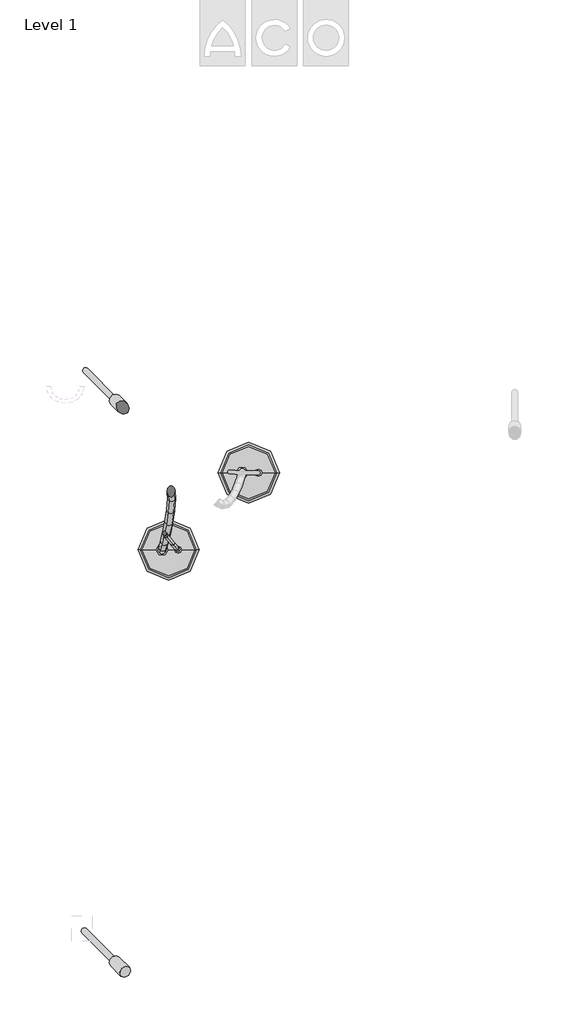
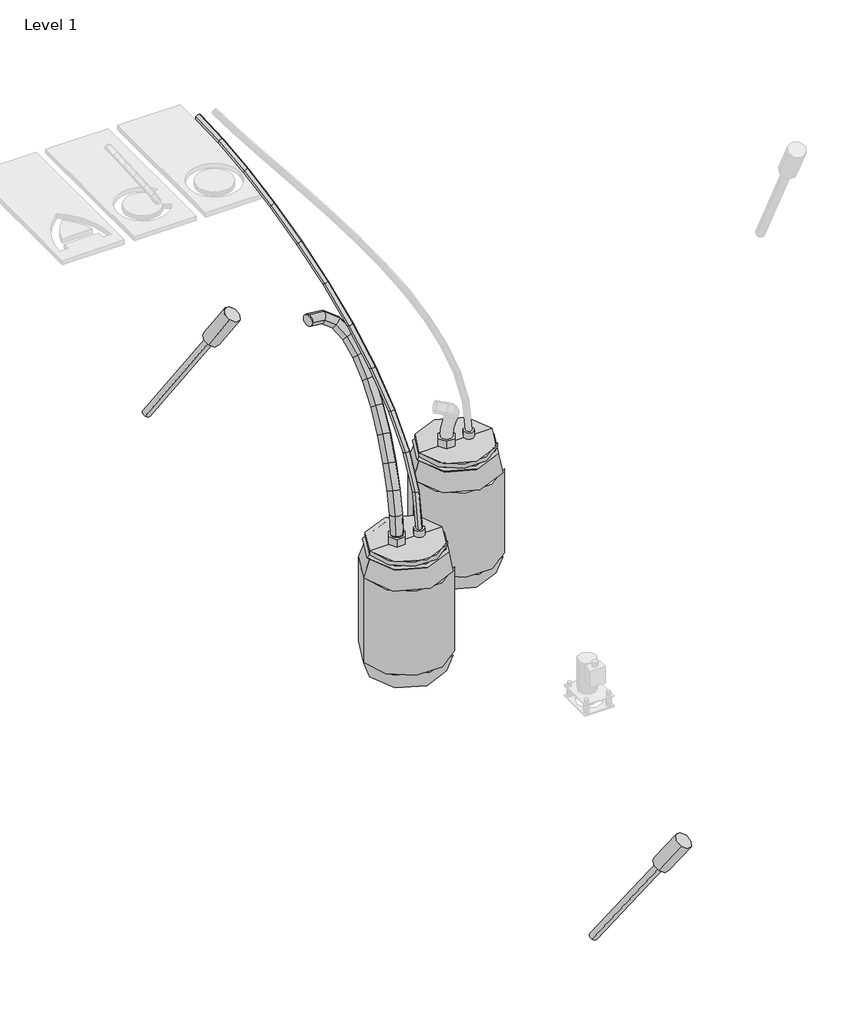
# One storey, part 4 of 6: 4 unitary equipment elements, 2 pipe segments.
"""IFC4 building model written with IfcOpenShell, lengths in millimetres."""

from ifc_helpers import new_model, si_unit, frame, origin, place, context, project, spatial, circle_curve, ellipse_curve, transform, mapped, element, save
from ifc_brep_helpers import plane_surface, cylinder_surface, advanced_brep
from components import std_bcf9d813, std_59afe5f4

model = new_model("IFC4")

# Units and contexts
model_context = context("Model", 3, world=origin())
ifc_project = project(units=[si_unit("LENGTHUNIT", "METRE", prefix="MILLI")], contexts=[model_context])

# Site, building, storey
site = spatial("IfcSite", under=ifc_project)
building = spatial("IfcBuilding", under=site)
storey = spatial("IfcBuildingStorey", under=building, Name="Level 1", Elevation=0.0)

# Pipe segments
placement = place(None, origin())
element("IfcPipeSegment", 1, ObjectType="Flex - Round", at=placement, inside=storey, context=model_context, shape_type="AdvancedBrep", body=[
    advanced_brep(
    [(390.9074141, 8701.4224198, 627.6347701), (391.4494078, 8719.0639775, 626.6439698), (409.0925859, 8718.5775802, 627.6347701), (408.5505922, 8700.9360225, 628.6255704), (381.5070959, 8711.3871417, 799.9180287), (382.0973464, 8728.9775453, 798.042808), (399.6972618, 8728.5370081, 799.8264999), (399.1070113, 8710.9466046, 801.7017207), (-14.6253635, 9728.6515235, 2105.5369575), (2.1531923, 9728.9219305, 2111.096359), (7.6253635, 9731.3484765, 2094.4630425), (-9.1531923, 9731.0780695, 2088.903641), (355.7172355, 8740.685022, 979.6225498), (356.5438679, 8758.0068903, 976.1002132), (373.9506833, 8757.7857192, 979.2294315), (373.124051, 8740.4638509, 982.7517681), (317.1606507, 8788.4192683, 1161.75844), (318.301802, 8805.3517524, 1156.7503602), (335.5057655, 8805.3817182, 1160.8378223), (334.3646143, 8788.4492341, 1165.8459021), (269.4662939, 8853.69223, 1341.3236765), (270.9862151, 8870.1063418, 1334.8895599), (288.0092883, 8870.3838683, 1339.6580589), (286.4893671, 8853.9697566, 1346.0921755), (216.2630202, 8935.6154259, 1513.3275531), (218.2317208, 8951.3385004, 1505.4425519), (235.1081293, 8951.8418635, 1510.6852117), (233.1394287, 8936.118789, 1518.5702128), (161.1781236, 9033.3187876, 1672.7867807), (163.6812273, 9048.0939985, 1663.354795), (180.4507269, 9048.7869844, 1668.9069334), (177.9476232, 9034.0117735, 1678.3389192), (107.8390893, 9145.9629985, 1814.7175966), (110.9791312, 9159.3930891, 1803.59077), (127.6853284, 9160.2197604, 1809.311351), (124.5452865, 9146.7896698, 1820.4381776), (59.8819395, 9272.752704, 1934.115133), (63.7623568, 9284.2253812, 1921.1450153), (80.4516443, 9285.0967586, 1926.9076959), (76.571227, 9273.6240814, 1939.8778136), (20.9732279, 9412.9313018, 2025.9060127), (25.642923, 9421.5604036, 2011.0738825), (42.3588532, 9422.3357939, 2016.7737095), (37.6891581, 9413.7066921, 2031.6058396), (-5.1549434, 9565.7008022, 2084.8806045), (0.1842504, 9570.4153937, 2068.5373307), (16.9505858, 9570.8960684, 2074.1233867), (11.6113919, 9566.1814769, 2090.4666605)],
    [
        (0, 1, circle_curve(frame((400.0, 8710.0, 627.6347701), z_axis=(0.054391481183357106, -0.05765719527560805, -0.9968536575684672), x_axis=(-0.7274068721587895, -0.6862064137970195, 0.0)), 12.5)),
        (1, 2, circle_curve(frame((400.0, 8710.0, 627.6347701), z_axis=(0.054391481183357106, -0.05765719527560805, -0.9968536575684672), x_axis=(-0.7274068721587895, -0.6862064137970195, 0.0)), 12.5)),
        (2, 3, circle_curve(frame((400.0, 8710.0, 627.6347701), z_axis=(0.054391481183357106, -0.05765719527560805, -0.9968536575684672), x_axis=(-0.7274068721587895, -0.6862064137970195, 0.0)), 12.5)),
        (3, 0, circle_curve(frame((400.0, 8710.0, 627.6347701), z_axis=(0.054391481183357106, -0.05765719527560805, -0.9968536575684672), x_axis=(-0.7274068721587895, -0.6862064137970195, 0.0)), 12.5)),
        (0, 4),
        (4, 5, ellipse_curve(frame((390.6021788, 8719.9620749, 799.8722643), z_axis=(0.09753789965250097, -0.10873423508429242, -0.9892740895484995), x_axis=(-0.6382819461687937, 0.755829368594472, -0.14600726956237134)), 12.5283638, 12.5)),
        (5, 1),
        (5, 6, ellipse_curve(frame((390.6021788, 8719.9620749, 799.8722643), z_axis=(0.09753789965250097, -0.10873423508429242, -0.9892740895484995), x_axis=(-0.6382819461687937, 0.755829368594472, -0.14600726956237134)), 12.5283638, 12.5)),
        (6, 2),
        (6, 7, ellipse_curve(frame((390.6021788, 8719.9620749, 799.8722643), z_axis=(0.09753789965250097, -0.10873423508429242, -0.9892740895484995), x_axis=(-0.6382819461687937, 0.755829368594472, -0.14600726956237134)), 12.5283638, 12.5)),
        (7, 3),
        (7, 4, ellipse_curve(frame((390.6021788, 8719.9620749, 799.8722643), z_axis=(0.09753789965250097, -0.10873423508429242, -0.9892740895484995), x_axis=(-0.6382819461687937, 0.755829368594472, -0.14600726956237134)), 12.5283638, 12.5)),
        (8, 9, circle_curve(frame((-3.5, 9730.0, 2100.0), z_axis=(-0.05756130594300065, 0.9904160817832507, 0.12554951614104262), x_axis=(-0.8900290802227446, -0.10787811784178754, 0.44295659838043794)), 12.5)),
        (9, 10, circle_curve(frame((-3.5, 9730.0, 2100.0), z_axis=(-0.05756130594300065, 0.9904160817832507, 0.12554951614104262), x_axis=(-0.8900290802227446, -0.10787811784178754, 0.44295659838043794)), 12.5)),
        (10, 11, circle_curve(frame((-3.5, 9730.0, 2100.0), z_axis=(-0.05756130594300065, 0.9904160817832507, 0.12554951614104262), x_axis=(-0.8900290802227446, -0.10787811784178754, 0.44295659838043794)), 12.5)),
        (11, 8, circle_curve(frame((-3.5, 9730.0, 2100.0), z_axis=(-0.05756130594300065, 0.9904160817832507, 0.12554951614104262), x_axis=(-0.8900290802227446, -0.10787811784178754, 0.44295659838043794)), 12.5)),
        (4, 12),
        (12, 13, ellipse_curve(frame((364.8339594, 8749.2353706, 979.4259906), z_axis=(0.17069337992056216, -0.2041596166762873, -0.9639411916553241), x_axis=(-0.5411165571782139, 0.7981474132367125, -0.2648652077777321)), 12.5194937, 12.5)),
        (13, 5),
        (13, 14, ellipse_curve(frame((364.8339594, 8749.2353706, 979.4259906), z_axis=(0.17069337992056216, -0.2041596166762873, -0.9639411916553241), x_axis=(-0.5411165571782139, 0.7981474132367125, -0.2648652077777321)), 12.5194937, 12.5)),
        (14, 6),
        (14, 15, ellipse_curve(frame((364.8339594, 8749.2353706, 979.4259906), z_axis=(0.17069337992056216, -0.2041596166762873, -0.9639411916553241), x_axis=(-0.5411165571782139, 0.7981474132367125, -0.2648652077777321)), 12.5194937, 12.5)),
        (15, 7),
        (15, 12, ellipse_curve(frame((364.8339594, 8749.2353706, 979.4259906), z_axis=(0.17069337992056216, -0.2041596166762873, -0.9639411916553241), x_axis=(-0.5411165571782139, 0.7981474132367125, -0.2648652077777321)), 12.5194937, 12.5)),
        (12, 16),
        (16, 17, ellipse_curve(frame((326.3332081, 8796.9004932, 1161.2981311), z_axis=(0.22167974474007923, -0.2902738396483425, -0.9309130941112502), x_axis=(-0.4175755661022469, 0.8344436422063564, -0.3596309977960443)), 12.5155246, 12.5)),
        (17, 13),
        (17, 18, ellipse_curve(frame((326.3332081, 8796.9004932, 1161.2981311), z_axis=(0.22167974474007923, -0.2902738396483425, -0.9309130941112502), x_axis=(-0.4175755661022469, 0.8344436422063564, -0.3596309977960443)), 12.5155246, 12.5)),
        (18, 14),
        (18, 19, ellipse_curve(frame((326.3332081, 8796.9004932, 1161.2981311), z_axis=(0.22167974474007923, -0.2902738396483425, -0.9309130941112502), x_axis=(-0.4175755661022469, 0.8344436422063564, -0.3596309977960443)), 12.5155246, 12.5)),
        (19, 15),
        (19, 16, ellipse_curve(frame((326.3332081, 8796.9004932, 1161.2981311), z_axis=(0.22167974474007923, -0.2902738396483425, -0.9309130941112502), x_axis=(-0.4175755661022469, 0.8344436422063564, -0.3596309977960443)), 12.5155246, 12.5)),
        (16, 20),
        (20, 21, ellipse_curve(frame((278.7377911, 8862.0380492, 1340.4908677), z_axis=(0.255880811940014, -0.373247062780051, -0.8917463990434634), x_axis=(-0.2769329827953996, 0.8554935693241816, -0.43753728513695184)), 12.5146256, 12.5)),
        (21, 17),
        (21, 22, ellipse_curve(frame((278.7377911, 8862.0380492, 1340.4908677), z_axis=(0.255880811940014, -0.373247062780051, -0.8917463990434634), x_axis=(-0.2769329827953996, 0.8554935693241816, -0.43753728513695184)), 12.5146256, 12.5)),
        (22, 18),
        (22, 23, ellipse_curve(frame((278.7377911, 8862.0380492, 1340.4908677), z_axis=(0.255880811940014, -0.373247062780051, -0.8917463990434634), x_axis=(-0.2769329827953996, 0.8554935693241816, -0.43753728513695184)), 12.5146256, 12.5)),
        (23, 19),
        (23, 20, ellipse_curve(frame((278.7377911, 8862.0380492, 1340.4908677), z_axis=(0.255880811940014, -0.373247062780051, -0.8917463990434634), x_axis=(-0.2769329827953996, 0.8554935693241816, -0.43753728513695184)), 12.5146256, 12.5)),
        (20, 24),
        (24, 25, ellipse_curve(frame((225.6855748, 8943.7286447, 1512.0063824), z_axis=(0.276118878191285, -0.4582555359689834, -0.8448433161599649), x_axis=(-0.1330900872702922, 0.852317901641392, -0.5058074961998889)), 12.5163116, 12.5)),
        (25, 21),
        (25, 26, ellipse_curve(frame((225.6855748, 8943.7286447, 1512.0063824), z_axis=(0.276118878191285, -0.4582555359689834, -0.8448433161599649), x_axis=(-0.1330900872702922, 0.852317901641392, -0.5058074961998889)), 12.5163116, 12.5)),
        (26, 22),
        (26, 27, ellipse_curve(frame((225.6855748, 8943.7286447, 1512.0063824), z_axis=(0.276118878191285, -0.4582555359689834, -0.8448433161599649), x_axis=(-0.1330900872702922, 0.852317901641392, -0.5058074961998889)), 12.5163116, 12.5)),
        (27, 23),
        (27, 24, ellipse_curve(frame((225.6855748, 8943.7286447, 1512.0063824), z_axis=(0.276118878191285, -0.4582555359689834, -0.8448433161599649), x_axis=(-0.1330900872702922, 0.852317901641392, -0.5058074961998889)), 12.5163116, 12.5)),
        (24, 28),
        (28, 29, ellipse_curve(frame((170.8144252, 9041.052886, 1670.8468571), z_axis=(0.2829465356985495, -0.5496860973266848, -0.7859939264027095), x_axis=(0.0014199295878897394, 0.8197206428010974, -0.5727617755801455)), 12.5211287, 12.5)),
        (29, 25),
        (29, 30, ellipse_curve(frame((170.8144252, 9041.052886, 1670.8468571), z_axis=(0.2829465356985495, -0.5496860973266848, -0.7859939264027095), x_axis=(0.0014199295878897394, 0.8197206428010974, -0.5727617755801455)), 12.5211287, 12.5)),
        (30, 26),
        (30, 31, ellipse_curve(frame((170.8144252, 9041.052886, 1670.8468571), z_axis=(0.2829465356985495, -0.5496860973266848, -0.7859939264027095), x_axis=(0.0014199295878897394, 0.8197206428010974, -0.5727617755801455)), 12.5211287, 12.5)),
        (31, 27),
        (31, 28, ellipse_curve(frame((170.8144252, 9041.052886, 1670.8468571), z_axis=(0.2829465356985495, -0.5496860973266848, -0.7859939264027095), x_axis=(0.0014199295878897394, 0.8197206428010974, -0.5727617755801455)), 12.5211287, 12.5)),
        (28, 32),
        (32, 33, ellipse_curve(frame((117.7622089, 9153.0913795, 1812.0144738), z_axis=(0.27460834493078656, -0.6507191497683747, -0.7079229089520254), x_axis=(0.12073693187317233, 0.7537338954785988, -0.6459936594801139)), 12.5307407, 12.5)),
        (33, 29),
        (33, 34, ellipse_curve(frame((117.7622089, 9153.0913795, 1812.0144738), z_axis=(0.27460834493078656, -0.6507191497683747, -0.7079229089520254), x_axis=(0.12073693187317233, 0.7537338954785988, -0.6459936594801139)), 12.5307407, 12.5)),
        (34, 30),
        (34, 35, ellipse_curve(frame((117.7622089, 9153.0913795, 1812.0144738), z_axis=(0.27460834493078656, -0.6507191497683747, -0.7079229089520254), x_axis=(0.12073693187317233, 0.7537338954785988, -0.6459936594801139)), 12.5307407, 12.5)),
        (35, 31),
        (35, 32, ellipse_curve(frame((117.7622089, 9153.0913795, 1812.0144738), z_axis=(0.27460834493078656, -0.6507191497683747, -0.7079229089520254), x_axis=(0.12073693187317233, 0.7537338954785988, -0.6459936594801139)), 12.5307407, 12.5)),
        (32, 36),
        (36, 37, ellipse_curve(frame((70.1667919, 9278.9247313, 1930.5114144), z_axis=(0.24678136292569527, -0.7613128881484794, -0.5995845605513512), x_axis=(0.22484084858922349, 0.6468191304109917, -0.7287465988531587)), 12.5479883, 12.5)),
        (37, 33),
        (37, 38, ellipse_curve(frame((70.1667919, 9278.9247313, 1930.5114144), z_axis=(0.24678136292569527, -0.7613128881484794, -0.5995845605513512), x_axis=(0.22484084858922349, 0.6468191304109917, -0.7287465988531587)), 12.5479883, 12.5)),
        (38, 34),
        (38, 39, ellipse_curve(frame((70.1667919, 9278.9247313, 1930.5114144), z_axis=(0.24678136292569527, -0.7613128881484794, -0.5995845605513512), x_axis=(0.22484084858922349, 0.6468191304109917, -0.7287465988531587)), 12.5479883, 12.5)),
        (39, 35),
        (39, 36, ellipse_curve(frame((70.1667919, 9278.9247313, 1930.5114144), z_axis=(0.24678136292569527, -0.7613128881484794, -0.5995845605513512), x_axis=(0.22484084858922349, 0.6468191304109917, -0.7287465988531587)), 12.5479883, 12.5)),
        (36, 40),
        (40, 41, ellipse_curve(frame((31.6660406, 9417.6335478, 2021.3398611), z_axis=(0.19303103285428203, -0.8733042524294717, -0.44730157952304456), x_axis=(0.3142588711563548, 0.4868872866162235, -0.8149737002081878)), 12.5751961, 12.5)),
        (41, 37),
        (41, 42, ellipse_curve(frame((31.6660406, 9417.6335478, 2021.3398611), z_axis=(0.19303103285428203, -0.8733042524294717, -0.44730157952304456), x_axis=(0.3142588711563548, 0.4868872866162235, -0.8149737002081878)), 12.5751961, 12.5)),
        (42, 38),
        (42, 43, ellipse_curve(frame((31.6660406, 9417.6335478, 2021.3398611), z_axis=(0.19303103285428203, -0.8733042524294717, -0.44730157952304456), x_axis=(0.3142588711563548, 0.4868872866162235, -0.8149737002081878)), 12.5751961, 12.5)),
        (43, 39),
        (43, 40, ellipse_curve(frame((31.6660406, 9417.6335478, 2021.3398611), z_axis=(0.19303103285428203, -0.8733042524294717, -0.44730157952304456), x_axis=(0.3142588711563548, 0.4868872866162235, -0.8149737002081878)), 12.5751961, 12.5)),
        (40, 44),
        (44, 45, ellipse_curve(frame((5.8978212, 9568.2984353, 2079.5019956), z_axis=(0.10848347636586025, -0.9640278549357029, -0.2426553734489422), x_axis=(0.3842632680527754, 0.2657878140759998, -0.8841371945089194)), 12.6071811, 12.5)),
        (45, 41),
        (45, 46, ellipse_curve(frame((5.8978212, 9568.2984353, 2079.5019956), z_axis=(0.10848347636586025, -0.9640278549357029, -0.2426553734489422), x_axis=(0.3842632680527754, 0.2657878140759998, -0.8841371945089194)), 12.6071811, 12.5)),
        (46, 42),
        (46, 47, ellipse_curve(frame((5.8978212, 9568.2984353, 2079.5019956), z_axis=(0.10848347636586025, -0.9640278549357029, -0.2426553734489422), x_axis=(0.3842632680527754, 0.2657878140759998, -0.8841371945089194)), 12.6071811, 12.5)),
        (47, 43),
        (47, 44, ellipse_curve(frame((5.8978212, 9568.2984353, 2079.5019956), z_axis=(0.10848347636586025, -0.9640278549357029, -0.2426553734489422), x_axis=(0.3842632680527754, 0.2657878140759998, -0.8841371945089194)), 12.6071811, 12.5)),
        (44, 8),
        (11, 45),
        (10, 46),
        (9, 47),
    ],
    [
        plane_surface(frame((400.0, 8697.5208563, 628.3565535), z_axis=(0.054391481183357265, -0.05765719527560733, -0.9968536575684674), x_axis=(0.9985196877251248, 0.0031407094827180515, 0.0543007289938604))),
        cylinder_surface(frame((400.0, 8710.0, 627.6347701), z_axis=(0.054391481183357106, -0.05765719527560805, -0.9968536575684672), x_axis=(-0.7274068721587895, -0.6862064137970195, 0.0)), 12.5),
        plane_surface(frame((-3.5, 9728.4280247, 2112.4007618), z_axis=(-0.05756130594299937, 0.9904160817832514, 0.12554951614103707), x_axis=(0.9983419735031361, 0.05710432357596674, 0.007238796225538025))),
        cylinder_surface(frame((390.6021788, 8719.9620749, 799.8722643), z_axis=(0.14024267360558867, -0.15931893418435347, -0.9772151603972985), x_axis=(-0.7281217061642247, -0.6854095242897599, 0.007250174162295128)), 12.5),
        cylinder_surface(frame((364.8339594, 8749.2353706, 979.4259906), z_axis=(0.20061252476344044, -0.24836451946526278, -0.9476653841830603), x_axis=(-0.7310776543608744, -0.6818740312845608, 0.023943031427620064)), 12.5),
        cylinder_surface(frame((326.3332081, 8796.9004932, 1161.2981311), z_axis=(0.24219700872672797, -0.33146303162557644, -0.911851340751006), x_axis=(-0.7370967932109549, -0.673992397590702, 0.049219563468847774)), 12.5),
        cylinder_surface(frame((278.7377911, 8862.0380492, 1340.4908677), z_axis=(0.2689665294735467, -0.4141586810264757, -0.869557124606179), x_axis=(-0.7468537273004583, -0.6597601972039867, 0.0832225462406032)), 12.5),
        cylinder_surface(frame((225.6855748, 8943.7286447, 1512.0063824), z_axis=(0.28255153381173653, -0.5011579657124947, -0.8179274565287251), x_axis=(-0.7611060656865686, -0.6361065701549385, 0.1268305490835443)), 12.5),
        cylinder_surface(frame((170.8144252, 9041.052886, 1670.8468571), z_axis=(0.2823866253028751, -0.5963591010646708, -0.7514077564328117), x_axis=(-0.7806964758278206, -0.5980478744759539, 0.1812505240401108)), 12.5),
        cylinder_surface(frame((117.7622089, 9153.0913795, 1812.0144738), z_axis=(0.2654827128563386, -0.7018864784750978, -0.6609646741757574), x_axis=(-0.8062153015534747, -0.5375777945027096, 0.24703643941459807)), 12.5),
        cylinder_surface(frame((70.1667919, 9278.9247313, 1930.5114144), z_axis=(0.22619244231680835, -0.8149162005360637, -0.5336183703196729), x_axis=(-0.8369083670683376, -0.4428906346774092, 0.3216088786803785)), 12.5),
        cylinder_surface(frame((31.6660406, 9417.6335478, 2021.3398611), z_axis=(0.15756108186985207, -0.9212480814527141, -0.35563531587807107), x_axis=(-0.8683233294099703, -0.300764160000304, 0.3944052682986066)), 12.5),
        cylinder_surface(frame((5.8978212, 9568.2984353, 2079.5019956), z_axis=(0.057561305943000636, -0.9904160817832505, -0.1255495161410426), x_axis=(-0.8900290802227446, -0.10787811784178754, 0.44295659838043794)), 12.5),
    ],
    [
        (0, [[1, 2, 3, 4]]),
        (1, [[-1, 5, 6, 7]]),
        (1, [[-2, -7, 8, 9]]),
        (1, [[-3, -9, 10, 11]]),
        (1, [[-4, -11, 12, -5]]),
        (2, [[13, 14, 15, 16]]),
        (3, [[-6, 17, 18, 19]]),
        (3, [[-8, -19, 20, 21]]),
        (3, [[-10, -21, 22, 23]]),
        (3, [[-12, -23, 24, -17]]),
        (4, [[-18, 25, 26, 27]]),
        (4, [[-20, -27, 28, 29]]),
        (4, [[-22, -29, 30, 31]]),
        (4, [[-24, -31, 32, -25]]),
        (5, [[-26, 33, 34, 35]]),
        (5, [[-28, -35, 36, 37]]),
        (5, [[-30, -37, 38, 39]]),
        (5, [[-32, -39, 40, -33]]),
        (6, [[-34, 41, 42, 43]]),
        (6, [[-36, -43, 44, 45]]),
        (6, [[-38, -45, 46, 47]]),
        (6, [[-40, -47, 48, -41]]),
        (7, [[-42, 49, 50, 51]]),
        (7, [[-44, -51, 52, 53]]),
        (7, [[-46, -53, 54, 55]]),
        (7, [[-48, -55, 56, -49]]),
        (8, [[-50, 57, 58, 59]]),
        (8, [[-52, -59, 60, 61]]),
        (8, [[-54, -61, 62, 63]]),
        (8, [[-56, -63, 64, -57]]),
        (9, [[-58, 65, 66, 67]]),
        (9, [[-60, -67, 68, 69]]),
        (9, [[-62, -69, 70, 71]]),
        (9, [[-64, -71, 72, -65]]),
        (10, [[-66, 73, 74, 75]]),
        (10, [[-68, -75, 76, 77]]),
        (10, [[-70, -77, 78, 79]]),
        (10, [[-72, -79, 80, -73]]),
        (11, [[-74, 81, 82, 83]]),
        (11, [[-76, -83, 84, 85]]),
        (11, [[-78, -85, 86, 87]]),
        (11, [[-80, -87, 88, -81]]),
        (12, [[-82, 89, -16, 90]]),
        (12, [[-84, -90, -15, 91]]),
        (12, [[-86, -91, -14, 92]]),
        (12, [[-88, -92, -13, -89]]),
    ],
),
])
element("IfcPipeSegment", 2, ObjectType="Flex - Round", at=placement, inside=storey, context=model_context, shape_type="AdvancedBrep", body=[
    advanced_brep(
    [(187.9824507, 9243.4230765, 1375.0), (194.4529268, 9219.2749308, 1350.0), (200.9234029, 9195.1267852, 1375.0), (194.4529268, 9219.2749308, 1400.0), (194.5844482, 9245.1920764, 1375.0), (196.791281, 9219.901491, 1350.0), (202.9536562, 9195.6707899, 1375.0), (200.7468233, 9220.9613753, 1400.0), (316.2039287, 8729.0376651, 633.6079188), (319.0376651, 8693.7960713, 633.6079188), (283.7960713, 8690.9623349, 633.6079188), (280.9623349, 8726.2039287, 633.6079188), (266.2849058, 9250.347985, 1363.2527849), (253.6607461, 9223.9909176, 1340.6826558), (258.9830442, 9199.6998074, 1365.8202919), (271.6072039, 9226.0568748, 1388.3904209), (321.6865626, 9225.1431723, 1328.655281), (293.7485334, 9205.7531025, 1315.6484338), (298.5584739, 9181.6950878, 1341.1060294), (326.4965031, 9201.0851576, 1354.1128767), (354.2939368, 9177.7332741, 1278.0312731), (320.6589835, 9166.6263183, 1273.8690857), (325.5267316, 9142.4842535, 1299.2369332), (359.1616849, 9153.5912093, 1303.3991206), (369.9407872, 9116.129198, 1215.5268819), (335.0456513, 9109.9837763, 1216.3987392), (340.0376139, 9085.3526597, 1241.2703876), (374.9327498, 9091.4980814, 1240.3985303), (373.3490428, 9045.3855771, 1142.9122406), (338.3238241, 9041.9402251, 1146.5555789), (343.3527472, 9016.5419362, 1170.6397648), (378.3779659, 9019.9872881, 1166.9964266), (367.9702575, 8970.6375592, 1062.2780493), (333.0488484, 8968.6348309, 1067.4776132), (338.0041328, 8942.2131979, 1090.4578699), (372.9255419, 8944.2159262, 1085.2583059), (356.9228874, 8897.3175945, 976.0760764), (322.1015045, 8895.978727, 982.0561387), (326.8568699, 8868.2302576, 1003.4764395), (361.6782528, 8869.5691251, 997.4963772), (343.2516193, 8831.0154097, 886.9963941), (308.4487523, 8829.76634, 893.0971035), (312.8498272, 8800.2996514, 912.2089068), (347.6526941, 8801.5487211, 906.1081975), (329.9834884, 8777.3801638, 797.9964135), (295.0806775, 8775.7270792, 803.4267182), (298.9395247, 8744.068483, 818.9013659), (333.8423356, 8745.7215676, 813.4710612), (320.0870062, 8741.8954421, 712.3667041), (284.9696476, 8739.4730777, 715.9406264), (288.1410063, 8705.34943, 725.4667525), (323.2583649, 8707.7717945, 721.8928302), (316.2039287, 8729.0376651, 635.7289261), (280.9623349, 8726.2039287, 636.8508979), (283.7960713, 8690.9623349, 639.7135925), (319.0376651, 8693.7960713, 638.5916207)],
    [
        (0, 1, circle_curve(frame((194.4529268, 9219.2749308, 1375.0), z_axis=(-0.9659258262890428, -0.2588190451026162, 0.0), x_axis=(-0.2588190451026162, 0.9659258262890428, 0.0)), 25.0)),
        (1, 2, circle_curve(frame((194.4529268, 9219.2749308, 1375.0), z_axis=(-0.9659258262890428, -0.2588190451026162, 0.0), x_axis=(-0.2588190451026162, 0.9659258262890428, 0.0)), 25.0)),
        (2, 3, circle_curve(frame((194.4529268, 9219.2749308, 1375.0), z_axis=(-0.9659258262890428, -0.2588190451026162, 0.0), x_axis=(-0.2588190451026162, 0.9659258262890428, 0.0)), 25.0)),
        (3, 0, circle_curve(frame((194.4529268, 9219.2749308, 1375.0), z_axis=(-0.9659258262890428, -0.2588190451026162, 0.0), x_axis=(-0.2588190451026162, 0.9659258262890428, 0.0)), 25.0)),
        (0, 4),
        (4, 5, ellipse_curve(frame((198.7690522, 9220.4314332, 1375.0), z_axis=(-0.9827565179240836, -0.16608804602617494, 0.0812673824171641), x_axis=(0.07423942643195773, -0.7569543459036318, -0.6492369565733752)), 25.1950944, 25.0)),
        (5, 1),
        (5, 6, ellipse_curve(frame((198.7690522, 9220.4314332, 1375.0), z_axis=(-0.9827565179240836, -0.16608804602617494, 0.0812673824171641), x_axis=(0.07423942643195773, -0.7569543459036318, -0.6492369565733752)), 25.1950944, 25.0)),
        (6, 2),
        (6, 7, ellipse_curve(frame((198.7690522, 9220.4314332, 1375.0), z_axis=(-0.9827565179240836, -0.16608804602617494, 0.0812673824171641), x_axis=(0.07423942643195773, -0.7569543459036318, -0.6492369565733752)), 25.1950944, 25.0)),
        (7, 3),
        (7, 4, ellipse_curve(frame((198.7690522, 9220.4314332, 1375.0), z_axis=(-0.9827565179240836, -0.16608804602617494, 0.0812673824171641), x_axis=(0.07423942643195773, -0.7569543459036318, -0.6492369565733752)), 25.1950944, 25.0)),
        (8, 9, circle_curve(frame((300.0, 8710.0, 633.6079188), z_axis=(0.0, 0.0, -1.0), x_axis=(0.6481571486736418, 0.761506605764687, 0.0)), 25.0)),
        (9, 10, circle_curve(frame((300.0, 8710.0, 633.6079188), z_axis=(0.0, 0.0, -1.0), x_axis=(0.6481571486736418, 0.761506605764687, 0.0)), 25.0)),
        (10, 11, circle_curve(frame((300.0, 8710.0, 633.6079188), z_axis=(0.0, 0.0, -1.0), x_axis=(0.6481571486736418, 0.761506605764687, 0.0)), 25.0)),
        (11, 8, circle_curve(frame((300.0, 8710.0, 633.6079188), z_axis=(0.0, 0.0, -1.0), x_axis=(0.6481571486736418, 0.761506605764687, 0.0)), 25.0)),
        (4, 12),
        (12, 13, ellipse_curve(frame((262.633975, 9225.0238962, 1364.5365384), z_axis=(-0.9273659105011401, 0.15104950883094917, 0.3423105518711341), x_axis=(-0.33419713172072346, -0.7457836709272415, -0.5762976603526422)), 26.1128395, 25.0)),
        (13, 5),
        (13, 14, ellipse_curve(frame((262.633975, 9225.0238962, 1364.5365384), z_axis=(-0.9273659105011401, 0.15104950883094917, 0.3423105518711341), x_axis=(-0.33419713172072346, -0.7457836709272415, -0.5762976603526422)), 26.1128395, 25.0)),
        (14, 6),
        (14, 15, ellipse_curve(frame((262.633975, 9225.0238962, 1364.5365384), z_axis=(-0.9273659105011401, 0.15104950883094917, 0.3423105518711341), x_axis=(-0.33419713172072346, -0.7457836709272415, -0.5762976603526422)), 26.1128395, 25.0)),
        (15, 7),
        (15, 12, ellipse_curve(frame((262.633975, 9225.0238962, 1364.5365384), z_axis=(-0.9273659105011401, 0.15104950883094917, 0.3423105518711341), x_axis=(-0.33419713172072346, -0.7457836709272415, -0.5762976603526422)), 26.1128395, 25.0)),
        (12, 16),
        (16, 17, ellipse_curve(frame((310.1225182, 9203.4191301, 1334.8806552), z_axis=(-0.6265421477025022, 0.5039045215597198, 0.5945798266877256), x_axis=(-0.7655334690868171, -0.5410840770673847, -0.3481185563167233)), 25.745865, 25.0)),
        (17, 13),
        (17, 18, ellipse_curve(frame((310.1225182, 9203.4191301, 1334.8806552), z_axis=(-0.6265421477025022, 0.5039045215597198, 0.5945798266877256), x_axis=(-0.7655334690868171, -0.5410840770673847, -0.3481185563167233)), 25.745865, 25.0)),
        (18, 14),
        (18, 19, ellipse_curve(frame((310.1225182, 9203.4191301, 1334.8806552), z_axis=(-0.6265421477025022, 0.5039045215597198, 0.5945798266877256), x_axis=(-0.7655334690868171, -0.5410840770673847, -0.3481185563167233)), 25.745865, 25.0)),
        (19, 15),
        (19, 16, ellipse_curve(frame((310.1225182, 9203.4191301, 1334.8806552), z_axis=(-0.6265421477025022, 0.5039045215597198, 0.5945798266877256), x_axis=(-0.7655334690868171, -0.5410840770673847, -0.3481185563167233)), 25.745865, 25.0)),
        (16, 20),
        (20, 21, ellipse_curve(frame((339.9103342, 9160.1087638, 1288.6341032), z_axis=(-0.30313151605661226, 0.6605851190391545, 0.6868322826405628), x_axis=(-0.9489622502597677, -0.27510900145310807, -0.15422608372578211)), 25.2196382, 25.0)),
        (21, 17),
        (21, 22, ellipse_curve(frame((339.9103342, 9160.1087638, 1288.6341032), z_axis=(-0.30313151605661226, 0.6605851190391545, 0.6868322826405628), x_axis=(-0.9489622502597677, -0.27510900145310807, -0.15422608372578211)), 25.2196382, 25.0)),
        (22, 18),
        (22, 23, ellipse_curve(frame((339.9103342, 9160.1087638, 1288.6341032), z_axis=(-0.30313151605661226, 0.6605851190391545, 0.6868322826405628), x_axis=(-0.9489622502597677, -0.27510900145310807, -0.15422608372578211)), 25.2196382, 25.0)),
        (23, 19),
        (23, 20, ellipse_curve(frame((339.9103342, 9160.1087638, 1288.6341032), z_axis=(-0.30313151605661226, 0.6605851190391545, 0.6868322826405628), x_axis=(-0.9489622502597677, -0.27510900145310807, -0.15422608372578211)), 25.2196382, 25.0)),
        (20, 24),
        (24, 25, ellipse_curve(frame((354.9892006, 9100.7409289, 1228.3986348), z_axis=(-0.10482923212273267, 0.696019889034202, 0.7103288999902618), x_axis=(-0.9936841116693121, -0.044554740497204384, -0.10298913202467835)), 25.0639915, 25.0)),
        (25, 21),
        (25, 26, ellipse_curve(frame((354.9892006, 9100.7409289, 1228.3986348), z_axis=(-0.10482923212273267, 0.696019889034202, 0.7103288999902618), x_axis=(-0.9936841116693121, -0.044554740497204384, -0.10298913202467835)), 25.0639915, 25.0)),
        (26, 22),
        (26, 27, ellipse_curve(frame((354.9892006, 9100.7409289, 1228.3986348), z_axis=(-0.10482923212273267, 0.696019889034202, 0.7103288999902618), x_axis=(-0.9936841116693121, -0.044554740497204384, -0.10298913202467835)), 25.0639915, 25.0)),
        (27, 23),
        (27, 24, ellipse_curve(frame((354.9892006, 9100.7409289, 1228.3986348), z_axis=(-0.10482923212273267, 0.696019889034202, 0.7103288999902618), x_axis=(-0.9936841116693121, -0.044554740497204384, -0.10298913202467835)), 25.0639915, 25.0)),
        (24, 28),
        (28, 29, ellipse_curve(frame((358.350895, 9030.9637566, 1156.7760027), z_axis=(0.0076377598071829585, 0.6888613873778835, 0.7248528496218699), x_axis=(-0.9576337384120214, 0.21372709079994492, -0.19302423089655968)), 25.0232039, 25.0)),
        (29, 25),
        (29, 30, ellipse_curve(frame((358.350895, 9030.9637566, 1156.7760027), z_axis=(0.0076377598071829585, 0.6888613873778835, 0.7248528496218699), x_axis=(-0.9576337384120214, 0.21372709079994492, -0.19302423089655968)), 25.0232039, 25.0)),
        (30, 26),
        (30, 31, ellipse_curve(frame((358.350895, 9030.9637566, 1156.7760027), z_axis=(0.0076377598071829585, 0.6888613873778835, 0.7248528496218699), x_axis=(-0.9576337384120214, 0.21372709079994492, -0.19302423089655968)), 25.0232039, 25.0)),
        (31, 27),
        (31, 28, ellipse_curve(frame((358.350895, 9030.9637566, 1156.7760027), z_axis=(0.0076377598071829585, 0.6888613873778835, 0.7248528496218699), x_axis=(-0.9576337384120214, 0.21372709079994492, -0.19302423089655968)), 25.0232039, 25.0)),
        (28, 32),
        (32, 33, ellipse_curve(frame((352.9871951, 8956.4253786, 1076.3679596), z_axis=(0.07304820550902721, 0.6622700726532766, 0.7456958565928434), x_axis=(-0.748939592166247, 0.5301759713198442, -0.3974958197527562)), 25.0130059, 25.0)),
        (33, 29),
        (33, 34, ellipse_curve(frame((352.9871951, 8956.4253786, 1076.3679596), z_axis=(0.07304820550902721, 0.6622700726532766, 0.7456958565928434), x_axis=(-0.748939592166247, 0.5301759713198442, -0.3974958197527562)), 25.0130059, 25.0)),
        (34, 30),
        (34, 35, ellipse_curve(frame((352.9871951, 8956.4253786, 1076.3679596), z_axis=(0.07304820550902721, 0.6622700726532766, 0.7456958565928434), x_axis=(-0.748939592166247, 0.5301759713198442, -0.3974958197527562)), 25.0130059, 25.0)),
        (35, 31),
        (35, 32, ellipse_curve(frame((352.9871951, 8956.4253786, 1076.3679596), z_axis=(0.07304820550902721, 0.6622700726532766, 0.7456958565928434), x_axis=(-0.748939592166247, 0.5301759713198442, -0.3974958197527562)), 25.0130059, 25.0)),
        (32, 36),
        (36, 37, ellipse_curve(frame((341.8898787, 8882.7739261, 989.776258), z_axis=(0.10974095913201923, 0.6190854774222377, 0.7776182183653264), x_axis=(-0.36119649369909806, 0.7536982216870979, -0.5490683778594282)), 25.0150231, 25.0)),
        (37, 33),
        (37, 38, ellipse_curve(frame((341.8898787, 8882.7739261, 989.776258), z_axis=(0.10974095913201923, 0.6190854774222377, 0.7776182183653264), x_axis=(-0.36119649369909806, 0.7536982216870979, -0.5490683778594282)), 25.0150231, 25.0)),
        (38, 34),
        (38, 39, ellipse_curve(frame((341.8898787, 8882.7739261, 989.776258), z_axis=(0.10974095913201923, 0.6190854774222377, 0.7776182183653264), x_axis=(-0.36119649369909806, 0.7536982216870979, -0.5490683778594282)), 25.0150231, 25.0)),
        (39, 35),
        (39, 36, ellipse_curve(frame((341.8898787, 8882.7739261, 989.776258), z_axis=(0.10974095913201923, 0.6190854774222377, 0.7776182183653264), x_axis=(-0.36119649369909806, 0.7536982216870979, -0.5490683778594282)), 25.0150231, 25.0)),
        (36, 40),
        (40, 41, ellipse_curve(frame((328.0507232, 8815.6575305, 899.6026505), z_axis=(0.12457044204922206, 0.5529474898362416, 0.8238514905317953), x_axis=(-0.046144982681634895, 0.8326492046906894, -0.5518749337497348)), 25.0293288, 25.0)),
        (41, 37),
        (41, 42, ellipse_curve(frame((328.0507232, 8815.6575305, 899.6026505), z_axis=(0.12457044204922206, 0.5529474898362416, 0.8238514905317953), x_axis=(-0.046144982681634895, 0.8326492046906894, -0.5518749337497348)), 25.0293288, 25.0)),
        (42, 38),
        (42, 43, ellipse_curve(frame((328.0507232, 8815.6575305, 899.6026505), z_axis=(0.12457044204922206, 0.5529474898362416, 0.8238514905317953), x_axis=(-0.046144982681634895, 0.8326492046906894, -0.5518749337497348)), 25.0293288, 25.0)),
        (43, 39),
        (43, 40, ellipse_curve(frame((328.0507232, 8815.6575305, 899.6026505), z_axis=(0.12457044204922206, 0.5529474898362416, 0.8238514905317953), x_axis=(-0.046144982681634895, 0.8326492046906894, -0.5518749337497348)), 25.0293288, 25.0)),
        (40, 44),
        (44, 45, ellipse_curve(frame((314.4615066, 8760.7243234, 808.4488897), z_axis=(0.11673923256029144, 0.4475904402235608, 0.886586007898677), x_axis=(0.13682648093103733, 0.8769292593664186, -0.4607315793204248)), 25.0703934, 25.0)),
        (45, 41),
        (45, 46, ellipse_curve(frame((314.4615066, 8760.7243234, 808.4488897), z_axis=(0.11673923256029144, 0.4475904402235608, 0.886586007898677), x_axis=(0.13682648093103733, 0.8769292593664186, -0.4607315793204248)), 25.0703934, 25.0)),
        (46, 42),
        (46, 47, ellipse_curve(frame((314.4615066, 8760.7243234, 808.4488897), z_axis=(0.11673923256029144, 0.4475904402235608, 0.886586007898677), x_axis=(0.13682648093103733, 0.8769292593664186, -0.4607315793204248)), 25.0703934, 25.0)),
        (47, 43),
        (47, 44, ellipse_curve(frame((314.4615066, 8760.7243234, 808.4488897), z_axis=(0.11673923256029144, 0.4475904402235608, 0.886586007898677), x_axis=(0.13682648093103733, 0.8769292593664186, -0.4607315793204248)), 25.0703934, 25.0)),
        (44, 48),
        (48, 49, ellipse_curve(frame((304.1140062, 8723.6224361, 718.9167283), z_axis=(0.07856810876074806, 0.2748201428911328, 0.9582801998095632), x_axis=(0.24215392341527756, 0.9272012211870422, -0.2857610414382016)), 25.170395, 25.0)),
        (49, 45),
        (49, 50, ellipse_curve(frame((304.1140062, 8723.6224361, 718.9167283), z_axis=(0.07856810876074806, 0.2748201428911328, 0.9582801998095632), x_axis=(0.24215392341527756, 0.9272012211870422, -0.2857610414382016)), 25.170395, 25.0)),
        (50, 46),
        (50, 51, ellipse_curve(frame((304.1140062, 8723.6224361, 718.9167283), z_axis=(0.07856810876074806, 0.2748201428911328, 0.9582801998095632), x_axis=(0.24215392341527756, 0.9272012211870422, -0.2857610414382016)), 25.170395, 25.0)),
        (51, 47),
        (51, 48, ellipse_curve(frame((304.1140062, 8723.6224361, 718.9167283), z_axis=(0.07856810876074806, 0.2748201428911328, 0.9582801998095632), x_axis=(0.24215392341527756, 0.9272012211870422, -0.2857610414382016)), 25.170395, 25.0)),
        (48, 52),
        (52, 53, ellipse_curve(frame((300.0, 8710.0, 637.7212593), z_axis=(0.025047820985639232, 0.08293918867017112, 0.9962397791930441), x_axis=(0.2880187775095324, 0.9536974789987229, -0.08663891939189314)), 25.0943603, 25.0)),
        (53, 49),
        (53, 54, ellipse_curve(frame((300.0, 8710.0, 637.7212593), z_axis=(0.025047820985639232, 0.08293918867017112, 0.9962397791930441), x_axis=(0.2880187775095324, 0.9536974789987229, -0.08663891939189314)), 25.0943603, 25.0)),
        (54, 50),
        (54, 55, ellipse_curve(frame((300.0, 8710.0, 637.7212593), z_axis=(0.025047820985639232, 0.08293918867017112, 0.9962397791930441), x_axis=(0.2880187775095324, 0.9536974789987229, -0.08663891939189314)), 25.0943603, 25.0)),
        (55, 51),
        (55, 52, ellipse_curve(frame((300.0, 8710.0, 637.7212593), z_axis=(0.025047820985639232, 0.08293918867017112, 0.9962397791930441), x_axis=(0.2880187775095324, 0.9536974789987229, -0.08663891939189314)), 25.0943603, 25.0)),
        (52, 8),
        (11, 53),
        (10, 54),
        (9, 55),
    ],
    [
        plane_surface(frame((194.4529268, 9219.2749308, 1400.0), z_axis=(-0.9659258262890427, -0.2588190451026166, 0.0), x_axis=(0.2588190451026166, -0.9659258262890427, 0.0))),
        cylinder_surface(frame((194.4529268, 9219.2749308, 1375.0), z_axis=(-0.9659258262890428, -0.2588190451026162, 0.0), x_axis=(-0.2588190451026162, 0.9659258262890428, 0.0)), 25.0),
        plane_surface(frame((300.0, 8685.0, 633.6079188), z_axis=(0.0, 0.0, -1.0), x_axis=(-1.0, 0.0, 0.0))),
        cylinder_surface(frame((198.7690522, 9220.4314332, 1375.0), z_axis=(-0.984367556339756, -0.07078489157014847, 0.1612762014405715), x_axis=(-0.07420357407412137, 0.9971262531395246, -0.015266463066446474)), 25.0),
        cylinder_surface(frame((262.633975, 9225.0238962, 1364.5365384), z_axis=(-0.7913219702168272, 0.360009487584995, 0.4941687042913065), x_axis=(0.32308633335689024, 0.9324156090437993, -0.1619146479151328)), 25.0),
        cylinder_surface(frame((310.1225182, 9203.4191301, 1334.8806552), z_axis=(-0.42546011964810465, 0.618603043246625, 0.6605406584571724), x_axis=(0.5375517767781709, 0.7599290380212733, -0.3654393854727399)), 25.0),
        cylinder_surface(frame((339.9103342, 9160.1087638, 1288.6341032), z_axis=(-0.1755229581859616, 0.6910611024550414, 0.7011606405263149), x_axis=(0.5909352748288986, 0.6435955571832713, -0.486395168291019)), 25.0),
        cylinder_surface(frame((354.9892006, 9100.7409289, 1228.3986348), z_axis=(-0.03360022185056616, 0.6974246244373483, 0.7158700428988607), x_axis=(0.5994280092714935, 0.5872075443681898, -0.543942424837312)), 25.0),
        cylinder_surface(frame((358.350895, 9030.9637566, 1156.7760027), z_axis=(0.04886157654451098, 0.6790205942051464, 0.7324913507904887), x_axis=(0.5992018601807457, 0.566810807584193, -0.5654048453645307)), 25.0),
        cylinder_surface(frame((352.9871951, 8956.4253786, 1076.3679596), z_axis=(0.09715886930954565, 0.6448308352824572, 0.7581248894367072), x_axis=(0.5995623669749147, 0.5700792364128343, -0.5617246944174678)), 25.0),
        cylinder_surface(frame((341.8898787, 8882.7739261, 989.776258), z_axis=(0.12219123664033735, 0.5925965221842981, 0.7961775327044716), x_axis=(0.6035312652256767, 0.5924691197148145, -0.5336013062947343)), 25.0),
        cylinder_surface(frame((328.0507232, 8815.6575305, 899.6026505), z_axis=(0.1266577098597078, 0.5120025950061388, 0.849594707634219), x_axis=(0.6127050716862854, 0.6331901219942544, -0.47292997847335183)), 25.0),
        cylinder_surface(frame((314.4615066, 8760.7243234, 808.4488897), z_axis=(0.10616518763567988, 0.38066477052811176, 0.9185985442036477), x_axis=(0.6277309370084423, 0.6908008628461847, -0.3588147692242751)), 25.0),
        cylinder_surface(frame((304.1140062, 8723.6224361, 718.9167283), z_axis=(0.049907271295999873, 0.1652546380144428, 0.9849873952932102), x_axis=(0.6441798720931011, 0.7483369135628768, -0.15819025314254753)), 25.0),
        cylinder_surface(frame((300.0, 8710.0, 637.7212593), z_axis=(0.0, 0.0, 0.9999999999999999), x_axis=(0.6481571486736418, 0.761506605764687, 0.0)), 25.0),
    ],
    [
        (0, [[1, 2, 3, 4]]),
        (1, [[-1, 5, 6, 7]]),
        (1, [[-2, -7, 8, 9]]),
        (1, [[-3, -9, 10, 11]]),
        (1, [[-4, -11, 12, -5]]),
        (2, [[13, 14, 15, 16]]),
        (3, [[-6, 17, 18, 19]]),
        (3, [[-8, -19, 20, 21]]),
        (3, [[-10, -21, 22, 23]]),
        (3, [[-12, -23, 24, -17]]),
        (4, [[-18, 25, 26, 27]]),
        (4, [[-20, -27, 28, 29]]),
        (4, [[-22, -29, 30, 31]]),
        (4, [[-24, -31, 32, -25]]),
        (5, [[-26, 33, 34, 35]]),
        (5, [[-28, -35, 36, 37]]),
        (5, [[-30, -37, 38, 39]]),
        (5, [[-32, -39, 40, -33]]),
        (6, [[-34, 41, 42, 43]]),
        (6, [[-36, -43, 44, 45]]),
        (6, [[-38, -45, 46, 47]]),
        (6, [[-40, -47, 48, -41]]),
        (7, [[-42, 49, 50, 51]]),
        (7, [[-44, -51, 52, 53]]),
        (7, [[-46, -53, 54, 55]]),
        (7, [[-48, -55, 56, -49]]),
        (8, [[-50, 57, 58, 59]]),
        (8, [[-52, -59, 60, 61]]),
        (8, [[-54, -61, 62, 63]]),
        (8, [[-56, -63, 64, -57]]),
        (9, [[-58, 65, 66, 67]]),
        (9, [[-60, -67, 68, 69]]),
        (9, [[-62, -69, 70, 71]]),
        (9, [[-64, -71, 72, -65]]),
        (10, [[-66, 73, 74, 75]]),
        (10, [[-68, -75, 76, 77]]),
        (10, [[-70, -77, 78, 79]]),
        (10, [[-72, -79, 80, -73]]),
        (11, [[-74, 81, 82, 83]]),
        (11, [[-76, -83, 84, 85]]),
        (11, [[-78, -85, 86, 87]]),
        (11, [[-80, -87, 88, -81]]),
        (12, [[-82, 89, 90, 91]]),
        (12, [[-84, -91, 92, 93]]),
        (12, [[-86, -93, 94, 95]]),
        (12, [[-88, -95, 96, -89]]),
        (13, [[-90, 97, 98, 99]]),
        (13, [[-92, -99, 100, 101]]),
        (13, [[-94, -101, 102, 103]]),
        (13, [[-96, -103, 104, -97]]),
        (14, [[-98, 105, -16, 106]]),
        (14, [[-100, -106, -15, 107]]),
        (14, [[-102, -107, -14, 108]]),
        (14, [[-104, -108, -13, -105]]),
    ],
),
])

# Unitary equipment
std_shape = std_bcf9d813(model_context)
element("IfcUnitaryEquipment", 3, ObjectType="ZZZ_do not use_ME_ST_WPB_heating rod_ACO : std", at=placement, inside=storey, context=model_context, shape_type="MappedRepresentation", body=[
    mapped(std_shape, transform((15.6873311, 6134.3126689, 744.9250572), x_axis=(-0.7071067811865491, -0.707106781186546, 0.0), y_axis=(0.5792279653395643, -0.5792279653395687, -0.5735764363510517), z_axis=(0.4055797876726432, -0.40557978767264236, 0.8191520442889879))),
])
element("IfcUnitaryEquipment", 4, ObjectType="ZZZ_do not use_ME_ST_WPB_heating rod_ACO : std", at=placement, inside=storey, context=model_context, shape_type="MappedRepresentation", body=[
    mapped(std_shape, transform((14.5877245, 9635.4122755, 1115.8072405), x_axis=(-0.7071067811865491, -0.7071067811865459, 0.0), y_axis=(0.5930296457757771, -0.5930296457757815, -0.5446390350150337), z_axis=(0.38511795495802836, -0.38511795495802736, 0.8386705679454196))),
])
std_2_shape = std_59afe5f4(model_context)
element("IfcUnitaryEquipment", 5, ObjectType="ME_GEN_UN_waste drum for Lipator_ACO : std", at=placement, inside=storey, context=model_context, shape_type="MappedRepresentation", body=[
    mapped(std_2_shape, transform((340.0, 8710.0, 0.0), x_axis=(1.0, 0.0, 0.0), y_axis=(0.0, 1.0, 0.0), z_axis=(0.0, 0.0, 1.0))),
])
element("IfcUnitaryEquipment", 6, ObjectType="ME_GEN_UN_waste drum for Lipator_ACO : std", at=placement, inside=storey, context=model_context, shape_type="MappedRepresentation", body=[
    mapped(std_2_shape, transform((840.0, 9190.0, 0.0), x_axis=(1.0, 0.0, 0.0), y_axis=(0.0, 1.0, 0.0), z_axis=(0.0, 0.0, 1.0))),
])

save(model, "model.ifc")
